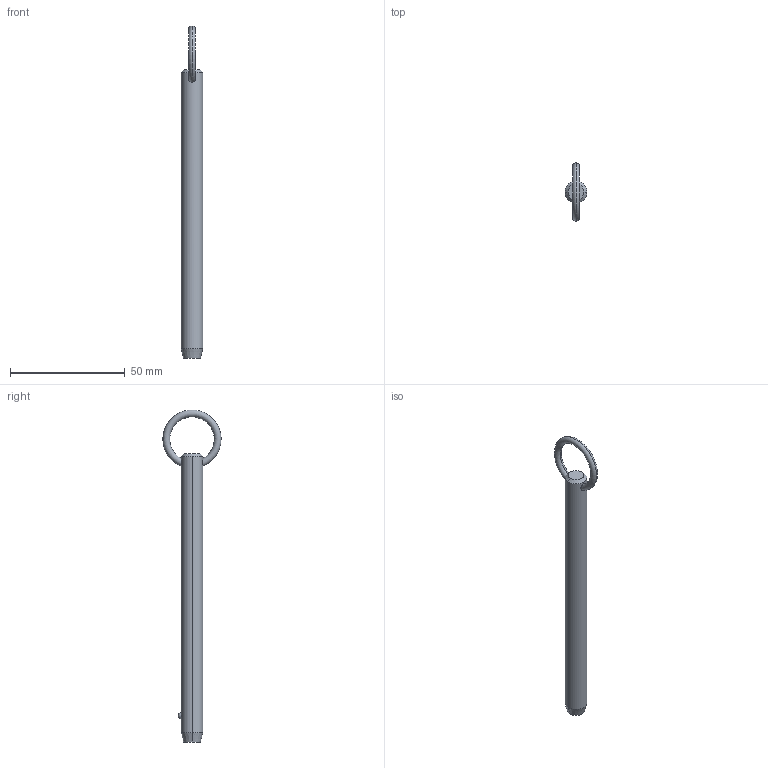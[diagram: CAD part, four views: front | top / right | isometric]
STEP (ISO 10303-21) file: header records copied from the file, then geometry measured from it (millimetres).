
FILE_DESCRIPTION (( 'STEP AP203' ), '1' );
FILE_NAME ('P1250.037-420.step', '2019-07-29T20:10:42', ( '' ), ( '' ), 'SwSTEP 2.0', 'SolidWorks 2017', '' );
FILE_SCHEMA (( 'CONFIG_CONTROL_DESIGN' ));
Length unit declared in the file: millimetre
Products named in the file (1): P1250.037-420
Bounding box: 9.52 x 25.39 x 144.8 mm (x, y, z)
Volume: 9302.2 mm3; surface area: 4403.1 mm2
Topology: 1 solids, 1 shells, 12 faces, 28 edges, 17 vertices
Faces by surface type: cone 4, torus 2, sphere 2, cylinder 2, plane 2
Entity records: 523 total; most frequent: CARTESIAN_POINT 190, DIRECTION 56, ORIENTED_EDGE 48, AXIS2_PLACEMENT_3D 25, EDGE_CURVE 24, EDGE_LOOP 15, VERTEX_POINT 15, CIRCLE 12
